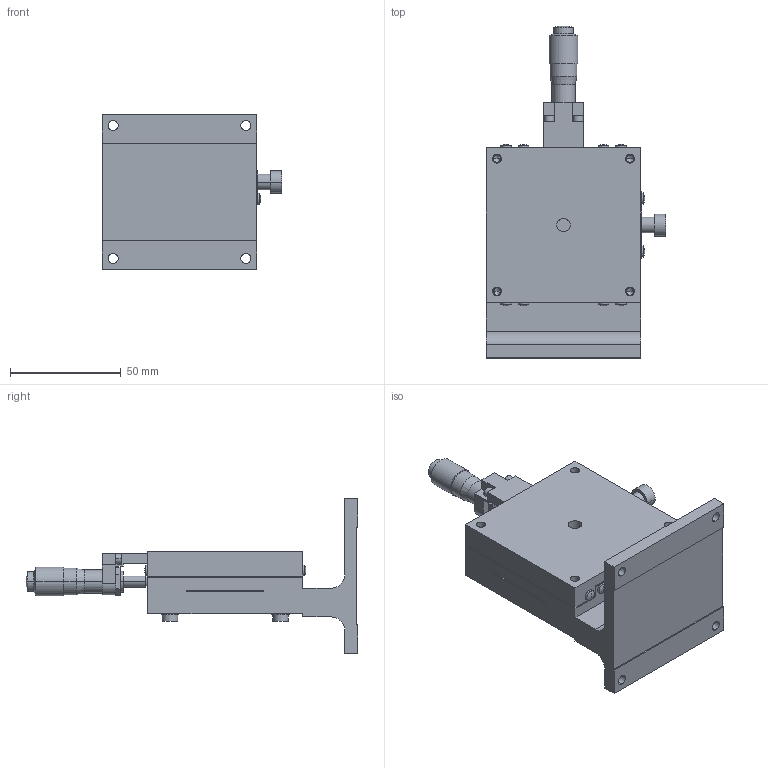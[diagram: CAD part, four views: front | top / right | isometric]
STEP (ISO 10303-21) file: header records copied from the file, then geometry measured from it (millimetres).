
FILE_DESCRIPTION (( 'STEP AP203' ), '1' );
FILE_NAME ('LZ-7047-CR8.STEP', '2011-08-10T05:38:21', ( '' ), ( '' ), 'SwSTEP 2.0', 'SolidWorks 2011', '' );
FILE_SCHEMA (( 'CONFIG_CONTROL_DESIGN' ));
Length unit declared in the file: millimetre
Products named in the file (3): LZ-7047-CR8; LZ-7047-CR8-2; LZ-7047-CR8-1
Assembly tree (2 placements, depth 2):
  LZ-7047-CR8
    LZ-7047-CR8-2
    LZ-7047-CR8-1
Bounding box: 81.3 x 150 x 70 mm (x, y, z)
Volume: 178135.9 mm3; surface area: 58044.1 mm2
Topology: 3 solids, 7 shells, 307 faces, 725 edges, 466 vertices
Faces by surface type: plane 128, cylinder 125, cone 32, sphere 18, torus 2, bspline 2
Entity records: 9612 total; most frequent: CARTESIAN_POINT 1943, DIRECTION 1635, ORIENTED_EDGE 1430, EDGE_CURVE 715, AXIS2_PLACEMENT_3D 622, VERTEX_POINT 466, VECTOR 391, LINE 391
